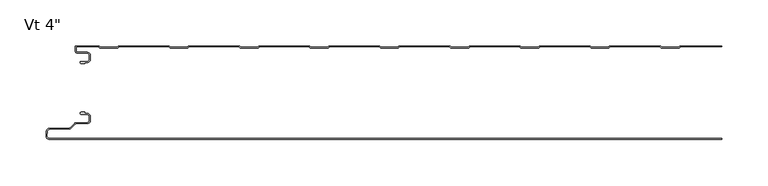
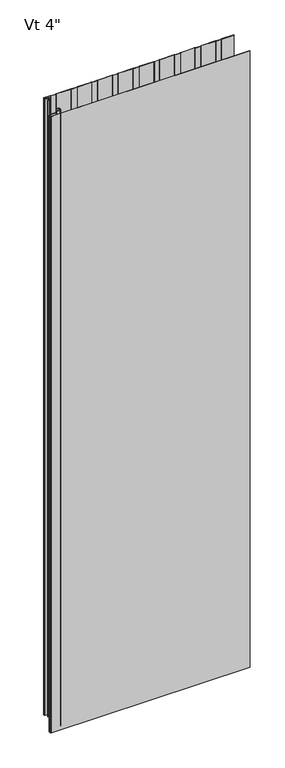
"""IFC4 building model written with IfcOpenShell, lengths in millimetres: plate geometry."""

from ifc_helpers import new_model, si_unit, point, frame, frame_2d, origin, origin_with_axes, place, context, project, spatial, polyline, circle_curve, trimmed, segment, composite_curve, outline, extrude, source, transform, mapped, element, save
from ifc_brep_helpers import plane_surface, cylinder_surface, revolved_surface, advanced_brep


def plate_c733afc2(model_context):
    return source(origin(), model_context, "Body", "SolidModel", [
        advanced_brep(
        [(-346.968691, -17.0015202, 2400.0), (-347.9686883, -18.0015234, 2400.0), (-346.968691, -19.0015147, 2400.0), (-342.9684874, -19.0015147, 2400.0), (-342.9684874, -18.0015202, 2400.0), (-340.2762776, -18.0015202, 2400.0), (-336.9762819, -14.7015245, 2400.0), (-336.9762819, -10.3015333, 2400.0), (-340.2762774, -7.0015378, 2400.0), (-350.6962563, -7.0015378, 2400.0), (-352.4662505, -5.2315436, 2400.0), (-352.4662505, -0.9999959, 2400.0), (-327.9659738, -0.9999959, 2400.0), (-326.5803312, -2.200235, 2400.0), (-307.2051649, -2.200235, 2400.0), (-305.819532, -1.0000043, 2400.0), (-251.7661166, -1.0000043, 2400.0), (-250.3804836, -2.200235, 2400.0), (-231.0053173, -2.200235, 2400.0), (-229.6196844, -1.0000043, 2400.0), (-175.566269, -1.0000043, 2400.0), (-174.180636, -2.200235, 2400.0), (-154.8054697, -2.200235, 2400.0), (-153.4198368, -1.0000043, 2400.0), (-99.3664214, -1.0000043, 2400.0), (-97.9807884, -2.200235, 2400.0), (-78.6056221, -2.200235, 2400.0), (-77.2199892, -1.0000043, 2400.0), (-23.1665738, -1.0000043, 2400.0), (-21.7809408, -2.200235, 2400.0), (-2.4057745, -2.200235, 2400.0), (-1.0201416, -1.0000043, 2400.0), (53.0332738, -1.0000043, 2400.0), (54.4189068, -2.200235, 2400.0), (73.7940731, -2.200235, 2400.0), (75.179706, -1.0000043, 2400.0), (129.2331214, -1.0000043, 2400.0), (130.6187544, -2.200235, 2400.0), (149.9939207, -2.200235, 2400.0), (151.3795536, -1.0000043, 2400.0), (205.432969, -1.0000043, 2400.0), (206.818602, -2.200235, 2400.0), (226.1937683, -2.200235, 2400.0), (227.5794012, -1.0000043, 2400.0), (281.6328166, -1.0000043, 2400.0), (283.0184496, -2.200235, 2400.0), (302.3936159, -2.200235, 2400.0), (303.7792488, -1.0000043, 2400.0), (348.9999998, -1.0000043, 2400.0), (348.9999998, -4.3e-06, 2400.0), (303.9284, -4.3e-06, 2400.0), (303.0117831, -0.3417928, 2400.0), (302.0207355, -1.200235, 2400.0), (283.39133, -1.200235, 2400.0), (282.4002824, -0.3417928, 2400.0), (281.4836655, -4.3e-06, 2400.0), (227.7285524, -4.3e-06, 2400.0), (226.8119355, -0.3417928, 2400.0), (225.8208879, -1.200235, 2400.0), (207.1914824, -1.200235, 2400.0), (206.2004348, -0.3417928, 2400.0), (205.2838179, -4.3e-06, 2400.0), (151.5287048, -4.3e-06, 2400.0), (150.6120879, -0.3417928, 2400.0), (149.6210403, -1.200235, 2400.0), (130.9916348, -1.200235, 2400.0), (130.0005872, -0.3417928, 2400.0), (129.0839703, -4.3e-06, 2400.0), (75.3288572, -4.3e-06, 2400.0), (74.4122403, -0.3417928, 2400.0), (73.4211927, -1.200235, 2400.0), (54.7917872, -1.200235, 2400.0), (53.8007396, -0.3417928, 2400.0), (52.8841227, -4.3e-06, 2400.0), (-0.8709904, -4.3e-06, 2400.0), (-1.7876073, -0.3417928, 2400.0), (-2.7786549, -1.200235, 2400.0), (-21.4080604, -1.200235, 2400.0), (-22.399108, -0.3417928, 2400.0), (-23.3157249, -4.3e-06, 2400.0), (-77.070838, -4.3e-06, 2400.0), (-77.9874549, -0.3417928, 2400.0), (-78.9785025, -1.200235, 2400.0), (-97.607908, -1.200235, 2400.0), (-98.5989556, -0.3417928, 2400.0), (-99.5155725, -4.3e-06, 2400.0), (-153.2706856, -4.3e-06, 2400.0), (-154.1873025, -0.3417928, 2400.0), (-155.1783501, -1.200235, 2400.0), (-173.8077556, -1.200235, 2400.0), (-174.7988032, -0.3417928, 2400.0), (-175.7154201, -4.3e-06, 2400.0), (-229.4705332, -4.3e-06, 2400.0), (-230.3871501, -0.3417928, 2400.0), (-231.3781977, -1.200235, 2400.0), (-250.0076032, -1.200235, 2400.0), (-250.9986508, -0.3417928, 2400.0), (-251.9152677, -4.3e-06, 2400.0), (-305.6703808, -4.3e-06, 2400.0), (-306.5869977, -0.3417928, 2400.0), (-307.5780453, -1.200235, 2400.0), (-326.2074508, -1.200235, 2400.0), (-327.1984984, -0.3417928, 2400.0), (-328.1152067, -4.3e-06, 2400.0), (-352.0662543, 4.1e-06, 2400.0), (-353.4662505, -1.3999921, 2400.0), (-353.4662505, -5.2315436, 2400.0), (-350.6962563, -8.0015378, 2400.0), (-340.2762774, -8.0015378, 2400.0), (-337.9762819, -10.3015333, 2400.0), (-337.9762819, -14.7015245, 2400.0), (-340.2762776, -17.0015202, 2400.0), (-346.968691, -17.0015202, 0.0), (-340.2762776, -17.0015202, 0.0), (-337.9762819, -14.7015245, 0.0), (-337.9762819, -10.3015333, 0.0), (-340.2762774, -8.0015378, 0.0), (-350.6962563, -8.0015378, 0.0), (-353.4662505, -5.2315436, 0.0), (-353.4662505, -1.3999921, 0.0), (-352.0662543, 4.1e-06, 0.0), (-328.1151153, 4.1e-06, 0.0), (-327.1984984, -0.3417928, 0.0), (-326.2074508, -1.200235, 0.0), (-307.5780453, -1.200235, 0.0), (-306.5869977, -0.3417928, 0.0), (-305.6703808, -4.3e-06, 0.0), (-251.9152677, -4.3e-06, 0.0), (-250.9986508, -0.3417928, 0.0), (-250.0076032, -1.200235, 0.0), (-231.3781977, -1.200235, 0.0), (-230.3871501, -0.3417928, 0.0), (-229.4705332, -4.3e-06, 0.0), (-175.7154201, -4.3e-06, 0.0), (-174.7988032, -0.3417928, 0.0), (-173.8077556, -1.200235, 0.0), (-155.1783501, -1.200235, 0.0), (-154.1873025, -0.3417928, 0.0), (-153.2706856, -4.3e-06, 0.0), (-99.5155725, -4.3e-06, 0.0), (-98.5989556, -0.3417928, 0.0), (-97.607908, -1.200235, 0.0), (-78.9785025, -1.200235, 0.0), (-77.9874549, -0.3417928, 0.0), (-77.070838, -4.3e-06, 0.0), (-23.3157249, -4.3e-06, 0.0), (-22.399108, -0.3417928, 0.0), (-21.4080604, -1.200235, 0.0), (-2.7786549, -1.200235, 0.0), (-1.7876073, -0.3417928, 0.0), (-0.8709904, -4.3e-06, 0.0), (52.8841227, -4.3e-06, 0.0), (53.8007396, -0.3417928, 0.0), (54.7917872, -1.200235, 0.0), (73.4211927, -1.200235, 0.0), (74.4122403, -0.3417928, 0.0), (75.3288572, -4.3e-06, 0.0), (129.0839703, -4.3e-06, 0.0), (130.0005872, -0.3417928, 0.0), (130.9916348, -1.200235, 0.0), (149.6210403, -1.200235, 0.0), (150.6120879, -0.3417928, 0.0), (151.5287048, -4.3e-06, 0.0), (205.2838179, -4.3e-06, 0.0), (206.2004348, -0.3417928, 0.0), (207.1914824, -1.200235, 0.0), (225.8208879, -1.200235, 0.0), (226.8119355, -0.3417928, 0.0), (227.7285524, -4.3e-06, 0.0), (281.4836655, -4.3e-06, 0.0), (282.4002824, -0.3417928, 0.0), (283.39133, -1.200235, 0.0), (302.0207355, -1.200235, 0.0), (303.0117831, -0.3417928, 0.0), (303.9284, -4.3e-06, 0.0), (348.9999998, -4.3e-06, 0.0), (348.9999998, -1.0000043, 0.0), (303.7792488, -1.0000043, 0.0), (302.3936159, -2.200235, 0.0), (283.0184496, -2.200235, 0.0), (281.6328166, -1.0000043, 0.0), (227.5794012, -1.0000043, 0.0), (226.1937683, -2.200235, 0.0), (206.818602, -2.200235, 0.0), (205.432969, -1.0000043, 0.0), (151.3795536, -1.0000043, 0.0), (149.9939207, -2.200235, 0.0), (130.6187544, -2.200235, 0.0), (129.2331214, -1.0000043, 0.0), (75.179706, -1.0000043, 0.0), (73.7940731, -2.200235, 0.0), (54.4189068, -2.200235, 0.0), (53.0332738, -1.0000043, 0.0), (-1.0201416, -1.0000043, 0.0), (-2.4057745, -2.200235, 0.0), (-21.7809408, -2.200235, 0.0), (-23.1665738, -1.0000043, 0.0), (-77.2199892, -1.0000043, 0.0), (-78.6056221, -2.200235, 0.0), (-97.9807884, -2.200235, 0.0), (-99.3664214, -1.0000043, 0.0), (-153.4198368, -1.0000043, 0.0), (-154.8054697, -2.200235, 0.0), (-174.180636, -2.200235, 0.0), (-175.566269, -1.0000043, 0.0), (-229.6196844, -1.0000043, 0.0), (-231.0053173, -2.200235, 0.0), (-250.3804836, -2.200235, 0.0), (-251.7661166, -1.0000043, 0.0), (-305.819532, -1.0000043, 0.0), (-307.2051649, -2.200235, 0.0), (-326.5803312, -2.200235, 0.0), (-327.9659738, -0.9999959, 0.0), (-352.4662505, -0.9999959, 0.0), (-352.4662505, -5.2315436, 0.0), (-350.6962563, -7.0015378, 0.0), (-340.2762774, -7.0015378, 0.0), (-336.9762819, -10.3015333, 0.0), (-336.9762819, -14.7015245, 0.0), (-340.2762776, -18.0015202, 0.0), (-342.9684874, -18.0015202, 0.0), (-342.9684874, -19.0015147, 0.0), (-346.968691, -19.0015147, 0.0), (-347.9686882, -18.0015235, 0.0)],
        [
            (0, 1, circle_curve(frame((-346.968691, -18.0015175, 2400.0), z_axis=(0.0, 0.0, 1.0), x_axis=(1.0, 0.0, 0.0)), 0.9999973)),
            (1, 2, circle_curve(frame((-346.968691, -18.0015175, 2400.0), z_axis=(0.0, 0.0, 1.0), x_axis=(1.0, 0.0, 0.0)), 0.9999972)),
            (2, 3),
            (3, 4),
            (4, 5),
            (5, 6, circle_curve(frame((-340.2762776, -14.7015245, 2400.0), z_axis=(0.0, 0.0, 1.0), x_axis=(1.0, 0.0, 0.0)), 3.2999957)),
            (6, 7),
            (7, 8, circle_curve(frame((-340.2762774, -10.3015333, 2400.0), z_axis=(0.0, 0.0, 1.0), x_axis=(1.0, 0.0, 0.0)), 3.2999955)),
            (8, 9),
            (9, 10, circle_curve(frame((-350.6962563, -5.2315436, 2400.0), z_axis=(0.0, 0.0, -1.0), x_axis=(1.0, 0.0, 0.0)), 1.7699942)),
            (10, 11),
            (11, 12),
            (12, 13),
            (13, 14),
            (14, 15),
            (15, 16),
            (16, 17),
            (17, 18),
            (18, 19),
            (19, 20),
            (20, 21),
            (21, 22),
            (22, 23),
            (23, 24),
            (24, 25),
            (25, 26),
            (26, 27),
            (27, 28),
            (28, 29),
            (29, 30),
            (30, 31),
            (31, 32),
            (32, 33),
            (33, 34),
            (34, 35),
            (35, 36),
            (36, 37),
            (37, 38),
            (38, 39),
            (39, 40),
            (40, 41),
            (41, 42),
            (42, 43),
            (43, 44),
            (44, 45),
            (45, 46),
            (46, 47),
            (47, 48),
            (48, 49),
            (49, 50),
            (50, 51, circle_curve(frame((303.9284, -1.4000015, 2400.0), z_axis=(0.0, 0.0, 1.0), x_axis=(1.0, 0.0, 0.0)), 1.3999972)),
            (51, 52),
            (52, 53),
            (53, 54),
            (54, 55, circle_curve(frame((281.4836655, -1.4000015, 2400.0), z_axis=(0.0, 0.0, 1.0), x_axis=(1.0, 0.0, 0.0)), 1.3999972)),
            (55, 56),
            (56, 57, circle_curve(frame((227.7285524, -1.4000015, 2400.0), z_axis=(0.0, 0.0, 1.0), x_axis=(1.0, 0.0, 0.0)), 1.3999972)),
            (57, 58),
            (58, 59),
            (59, 60),
            (60, 61, circle_curve(frame((205.2838179, -1.4000015, 2400.0), z_axis=(0.0, 0.0, 1.0), x_axis=(1.0, 0.0, 0.0)), 1.3999972)),
            (61, 62),
            (62, 63, circle_curve(frame((151.5287048, -1.4000015, 2400.0), z_axis=(0.0, 0.0, 1.0), x_axis=(1.0, 0.0, 0.0)), 1.3999972)),
            (63, 64),
            (64, 65),
            (65, 66),
            (66, 67, circle_curve(frame((129.0839703, -1.4000015, 2400.0), z_axis=(0.0, 0.0, 1.0), x_axis=(1.0, 0.0, 0.0)), 1.3999972)),
            (67, 68),
            (68, 69, circle_curve(frame((75.3288572, -1.4000015, 2400.0), z_axis=(0.0, 0.0, 1.0), x_axis=(1.0, 0.0, 0.0)), 1.3999972)),
            (69, 70),
            (70, 71),
            (71, 72),
            (72, 73, circle_curve(frame((52.8841227, -1.4000015, 2400.0), z_axis=(0.0, 0.0, 1.0), x_axis=(1.0, 0.0, 0.0)), 1.3999972)),
            (73, 74),
            (74, 75, circle_curve(frame((-0.8709904, -1.4000015, 2400.0), z_axis=(0.0, 0.0, 1.0), x_axis=(1.0, 0.0, 0.0)), 1.3999972)),
            (75, 76),
            (76, 77),
            (77, 78),
            (78, 79, circle_curve(frame((-23.3157249, -1.4000015, 2400.0), z_axis=(0.0, 0.0, 1.0), x_axis=(1.0, 0.0, 0.0)), 1.3999972)),
            (79, 80),
            (80, 81, circle_curve(frame((-77.070838, -1.4000015, 2400.0), z_axis=(0.0, 0.0, 1.0), x_axis=(1.0, 0.0, 0.0)), 1.3999972)),
            (81, 82),
            (82, 83),
            (83, 84),
            (84, 85, circle_curve(frame((-99.5155725, -1.4000015, 2400.0), z_axis=(0.0, 0.0, 1.0), x_axis=(1.0, 0.0, 0.0)), 1.3999972)),
            (85, 86),
            (86, 87, circle_curve(frame((-153.2706856, -1.4000015, 2400.0), z_axis=(0.0, 0.0, 1.0), x_axis=(1.0, 0.0, 0.0)), 1.3999972)),
            (87, 88),
            (88, 89),
            (89, 90),
            (90, 91, circle_curve(frame((-175.7154201, -1.4000015, 2400.0), z_axis=(0.0, 0.0, 1.0), x_axis=(1.0, 0.0, 0.0)), 1.3999972)),
            (91, 92),
            (92, 93, circle_curve(frame((-229.4705332, -1.4000015, 2400.0), z_axis=(0.0, 0.0, 1.0), x_axis=(1.0, 0.0, 0.0)), 1.3999972)),
            (93, 94),
            (94, 95),
            (95, 96),
            (96, 97, circle_curve(frame((-251.9152677, -1.4000015, 2400.0), z_axis=(0.0, 0.0, 1.0), x_axis=(1.0, 0.0, 0.0)), 1.3999972)),
            (97, 98),
            (98, 99, circle_curve(frame((-305.6703808, -1.4000015, 2400.0), z_axis=(0.0, 0.0, 1.0), x_axis=(1.0, 0.0, 0.0)), 1.3999972)),
            (99, 100),
            (100, 101),
            (101, 102),
            (102, 103, circle_curve(frame((-328.1151153, -1.4000015, 2400.0), z_axis=(0.0, 0.0, 1.0), x_axis=(1.0, 0.0, 0.0)), 1.3999972)),
            (103, 104),
            (104, 105, circle_curve(frame((-352.0662543, -1.3999921, 2400.0), z_axis=(0.0, 0.0, 1.0), x_axis=(1.0, 0.0, 0.0)), 1.3999962)),
            (105, 106),
            (106, 107, circle_curve(frame((-350.6962563, -5.2315436, 2400.0), z_axis=(0.0, 0.0, 1.0), x_axis=(1.0, 0.0, 0.0)), 2.7699942)),
            (107, 108),
            (108, 109, circle_curve(frame((-340.2762774, -10.3015333, 2400.0), z_axis=(0.0, 0.0, -1.0), x_axis=(1.0, 0.0, 0.0)), 2.2999955)),
            (109, 110),
            (110, 111, circle_curve(frame((-340.2762776, -14.7015245, 2400.0), z_axis=(0.0, 0.0, -1.0), x_axis=(1.0, 0.0, 0.0)), 2.2999957)),
            (111, 0),
            (112, 113),
            (113, 114, circle_curve(frame((-340.2762776, -14.7015245, 0.0), z_axis=(0.0, 0.0, 1.0), x_axis=(1.0, 0.0, 0.0)), 2.2999957)),
            (114, 115),
            (115, 116, circle_curve(frame((-340.2762774, -10.3015333, 0.0), z_axis=(0.0, 0.0, 1.0), x_axis=(1.0, 0.0, 0.0)), 2.2999955)),
            (116, 117),
            (117, 118, circle_curve(frame((-350.6962563, -5.2315436, 0.0), z_axis=(0.0, 0.0, -1.0), x_axis=(1.0, 0.0, 0.0)), 2.7699942)),
            (118, 119),
            (119, 120, circle_curve(frame((-352.0662543, -1.3999921, 0.0), z_axis=(0.0, 0.0, -1.0), x_axis=(1.0, 0.0, 0.0)), 1.3999962)),
            (120, 121),
            (121, 122, circle_curve(frame((-328.1151153, -1.4000015, 0.0), z_axis=(0.0, 0.0, -1.0), x_axis=(1.0, 0.0, 0.0)), 1.3999972)),
            (122, 123),
            (123, 124),
            (124, 125),
            (125, 126, circle_curve(frame((-305.6703808, -1.4000015, 0.0), z_axis=(0.0, 0.0, -1.0), x_axis=(1.0, 0.0, 0.0)), 1.3999972)),
            (126, 127),
            (127, 128, circle_curve(frame((-251.9152677, -1.4000015, 0.0), z_axis=(0.0, 0.0, -1.0), x_axis=(1.0, 0.0, 0.0)), 1.3999972)),
            (128, 129),
            (129, 130),
            (130, 131),
            (131, 132, circle_curve(frame((-229.4705332, -1.4000015, 0.0), z_axis=(0.0, 0.0, -1.0), x_axis=(1.0, 0.0, 0.0)), 1.3999972)),
            (132, 133),
            (133, 134, circle_curve(frame((-175.7154201, -1.4000015, 0.0), z_axis=(0.0, 0.0, -1.0), x_axis=(1.0, 0.0, 0.0)), 1.3999972)),
            (134, 135),
            (135, 136),
            (136, 137),
            (137, 138, circle_curve(frame((-153.2706856, -1.4000015, 0.0), z_axis=(0.0, 0.0, -1.0), x_axis=(1.0, 0.0, 0.0)), 1.3999972)),
            (138, 139),
            (139, 140, circle_curve(frame((-99.5155725, -1.4000015, 0.0), z_axis=(0.0, 0.0, -1.0), x_axis=(1.0, 0.0, 0.0)), 1.3999972)),
            (140, 141),
            (141, 142),
            (142, 143),
            (143, 144, circle_curve(frame((-77.070838, -1.4000015, 0.0), z_axis=(0.0, 0.0, -1.0), x_axis=(1.0, 0.0, 0.0)), 1.3999972)),
            (144, 145),
            (145, 146, circle_curve(frame((-23.3157249, -1.4000015, 0.0), z_axis=(0.0, 0.0, -1.0), x_axis=(1.0, 0.0, 0.0)), 1.3999972)),
            (146, 147),
            (147, 148),
            (148, 149),
            (149, 150, circle_curve(frame((-0.8709904, -1.4000015, 0.0), z_axis=(0.0, 0.0, -1.0), x_axis=(1.0, 0.0, 0.0)), 1.3999972)),
            (150, 151),
            (151, 152, circle_curve(frame((52.8841227, -1.4000015, 0.0), z_axis=(0.0, 0.0, -1.0), x_axis=(1.0, 0.0, 0.0)), 1.3999972)),
            (152, 153),
            (153, 154),
            (154, 155),
            (155, 156, circle_curve(frame((75.3288572, -1.4000015, 0.0), z_axis=(0.0, 0.0, -1.0), x_axis=(1.0, 0.0, 0.0)), 1.3999972)),
            (156, 157),
            (157, 158, circle_curve(frame((129.0839703, -1.4000015, 0.0), z_axis=(0.0, 0.0, -1.0), x_axis=(1.0, 0.0, 0.0)), 1.3999972)),
            (158, 159),
            (159, 160),
            (160, 161),
            (161, 162, circle_curve(frame((151.5287048, -1.4000015, 0.0), z_axis=(0.0, 0.0, -1.0), x_axis=(1.0, 0.0, 0.0)), 1.3999972)),
            (162, 163),
            (163, 164, circle_curve(frame((205.2838179, -1.4000015, 0.0), z_axis=(0.0, 0.0, -1.0), x_axis=(1.0, 0.0, 0.0)), 1.3999972)),
            (164, 165),
            (165, 166),
            (166, 167),
            (167, 168, circle_curve(frame((227.7285524, -1.4000015, 0.0), z_axis=(0.0, 0.0, -1.0), x_axis=(1.0, 0.0, 0.0)), 1.3999972)),
            (168, 169),
            (169, 170, circle_curve(frame((281.4836655, -1.4000015, 0.0), z_axis=(0.0, 0.0, -1.0), x_axis=(1.0, 0.0, 0.0)), 1.3999972)),
            (170, 171),
            (171, 172),
            (172, 173),
            (173, 174, circle_curve(frame((303.9284, -1.4000015, 0.0), z_axis=(0.0, 0.0, -1.0), x_axis=(1.0, 0.0, 0.0)), 1.3999972)),
            (174, 175),
            (175, 176),
            (176, 177),
            (177, 178),
            (178, 179),
            (179, 180),
            (180, 181),
            (181, 182),
            (182, 183),
            (183, 184),
            (184, 185),
            (185, 186),
            (186, 187),
            (187, 188),
            (188, 189),
            (189, 190),
            (190, 191),
            (191, 192),
            (192, 193),
            (193, 194),
            (194, 195),
            (195, 196),
            (196, 197),
            (197, 198),
            (198, 199),
            (199, 200),
            (200, 201),
            (201, 202),
            (202, 203),
            (203, 204),
            (204, 205),
            (205, 206),
            (206, 207),
            (207, 208),
            (208, 209),
            (209, 210),
            (210, 211),
            (211, 212),
            (212, 213),
            (213, 214),
            (214, 215, circle_curve(frame((-350.6962563, -5.2315436, 0.0), z_axis=(0.0, 0.0, 1.0), x_axis=(1.0, 0.0, 0.0)), 1.7699942)),
            (215, 216),
            (216, 217, circle_curve(frame((-340.2762774, -10.3015333, 0.0), z_axis=(0.0, 0.0, -1.0), x_axis=(1.0, 0.0, 0.0)), 3.2999955)),
            (217, 218),
            (218, 219, circle_curve(frame((-340.2762776, -14.7015245, 0.0), z_axis=(0.0, 0.0, -1.0), x_axis=(1.0, 0.0, 0.0)), 3.2999957)),
            (219, 220),
            (220, 221),
            (221, 222),
            (222, 223, circle_curve(frame((-346.968691, -18.0015175, 0.0), z_axis=(0.0, 0.0, -1.0), x_axis=(1.0, 0.0, 0.0)), 0.9999972)),
            (223, 112, circle_curve(frame((-346.968691, -18.0015175, 0.0), z_axis=(0.0, 0.0, -1.0), x_axis=(1.0, 0.0, 0.0)), 0.9999973)),
            (48, 176),
            (175, 49),
            (111, 113),
            (112, 0),
            (110, 114),
            (109, 115),
            (108, 116),
            (107, 117),
            (106, 118),
            (105, 119),
            (104, 120),
            (103, 121),
            (102, 122),
            (101, 123),
            (100, 124),
            (99, 125),
            (98, 126),
            (97, 127),
            (96, 128),
            (95, 129),
            (94, 130),
            (93, 131),
            (92, 132),
            (91, 133),
            (90, 134),
            (89, 135),
            (88, 136),
            (87, 137),
            (86, 138),
            (85, 139),
            (84, 140),
            (83, 141),
            (82, 142),
            (81, 143),
            (80, 144),
            (79, 145),
            (78, 146),
            (77, 147),
            (76, 148),
            (75, 149),
            (74, 150),
            (73, 151),
            (72, 152),
            (71, 153),
            (70, 154),
            (69, 155),
            (68, 156),
            (67, 157),
            (66, 158),
            (65, 159),
            (64, 160),
            (63, 161),
            (62, 162),
            (38, 186),
            (185, 39),
            (37, 187),
            (36, 188),
            (35, 189),
            (34, 190),
            (33, 191),
            (32, 192),
            (31, 193),
            (30, 194),
            (29, 195),
            (28, 196),
            (27, 197),
            (26, 198),
            (25, 199),
            (24, 200),
            (23, 201),
            (22, 202),
            (21, 203),
            (20, 204),
            (19, 205),
            (18, 206),
            (17, 207),
            (16, 208),
            (15, 209),
            (14, 210),
            (13, 211),
            (12, 212),
            (11, 213),
            (10, 214),
            (9, 215),
            (8, 216),
            (7, 217),
            (6, 218),
            (5, 219),
            (4, 220),
            (3, 221),
            (2, 222),
            (1, 223),
            (55, 169),
            (168, 56),
            (54, 170),
            (53, 171),
            (52, 172),
            (51, 173),
            (50, 174),
            (43, 181),
            (180, 44),
            (42, 182),
            (41, 183),
            (40, 184),
            (61, 163),
            (60, 164),
            (59, 165),
            (58, 166),
            (57, 167),
            (47, 177),
            (46, 178),
            (45, 179),
        ],
        [
            plane_surface(frame((32.0000002, -4.3e-06, 2400.0), z_axis=(0.0, 0.0, 1.0), x_axis=(0.0, 1.0, 0.0))),
            plane_surface(frame((32.0000002, -4.3e-06, 0.0), z_axis=(0.0, 0.0, -1.0), x_axis=(0.0, 1.0, 0.0))),
            plane_surface(frame((348.9999998, -111.6000043, 2400.0), z_axis=(1.0, 0.0, 0.0), x_axis=(0.0, 0.0, -1.0))),
            plane_surface(frame((-346.968691, -17.0015202, 2400.0), z_axis=(0.0, 1.0, 0.0), x_axis=(0.0, 0.0, -1.0))),
            revolved_surface(polyline([(-337.9762819, -14.7015245, 0.0), (-337.9762819, -14.7015245, 2400.0)]), (-340.2762776, -14.7015245, 2400.0), (0.0, 0.0, -1.0)),
            plane_surface(frame((-337.9762819, -14.7015245, 2400.0), z_axis=(-1.0, 0.0, 0.0), x_axis=(0.0, 0.0, -1.0))),
            revolved_surface(polyline([(-337.9762819, -10.3015333, 0.0), (-337.9762819, -10.3015333, 2400.0)]), (-340.2762774, -10.3015333, 2400.0), (0.0, 0.0, -1.0)),
            plane_surface(frame((-340.2762774, -8.0015378, 2400.0), z_axis=(0.0, -1.0, 0.0), x_axis=(0.0, 0.0, -1.0))),
            cylinder_surface(frame((-350.6962563, -5.2315436, 2400.0), z_axis=(0.0, 0.0, 1.0), x_axis=(1.0, 0.0, 0.0)), 2.7699942),
            plane_surface(frame((-353.4662505, -5.2315436, 2400.0), z_axis=(-1.0, 0.0, 0.0), x_axis=(0.0, 0.0, -1.0))),
            cylinder_surface(frame((-352.0662543, -1.3999921, 2400.0), z_axis=(0.0, 0.0, 1.0), x_axis=(1.0, 0.0, 0.0)), 1.3999962),
            plane_surface(frame((-352.0662543, 4.1e-06, 2400.0), z_axis=(0.0, 1.0, 0.0), x_axis=(0.0, 0.0, -1.0))),
            cylinder_surface(frame((-328.1151153, -1.4000015, 2400.0), z_axis=(0.0, 0.0, 1.0), x_axis=(1.0, 0.0, 0.0)), 1.3999972),
            plane_surface(frame((-327.1984984, -0.3417928, 2400.0), z_axis=(0.6547276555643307, 0.7558648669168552, 0.0), x_axis=(0.0, 0.0, -1.0))),
            plane_surface(frame((-316.8927481, -1.200235, 2400.0), z_axis=(0.0, 1.0, 0.0), x_axis=(0.0, 0.0, -1.0))),
            plane_surface(frame((-307.5780453, -1.200235, 2400.0), z_axis=(-0.6547276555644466, 0.7558648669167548, 0.0), x_axis=(0.0, 0.0, -1.0))),
            cylinder_surface(frame((-305.6703808, -1.4000015, 2400.0), z_axis=(0.0, 0.0, 1.0), x_axis=(1.0, 0.0, 0.0)), 1.3999972),
            plane_surface(frame((-305.6703808, -4.3e-06, 2400.0), z_axis=(0.0, 1.0, 0.0), x_axis=(0.0, 0.0, -1.0))),
            cylinder_surface(frame((-251.9152677, -1.4000015, 2400.0), z_axis=(0.0, 0.0, 1.0), x_axis=(1.0, 0.0, 0.0)), 1.3999972),
            plane_surface(frame((-250.9986508, -0.3417928, 2400.0), z_axis=(0.6547276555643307, 0.7558648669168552, 0.0), x_axis=(0.0, 0.0, -1.0))),
            plane_surface(frame((-240.6929005, -1.200235, 2400.0), z_axis=(0.0, 1.0, 0.0), x_axis=(0.0, 0.0, -1.0))),
            plane_surface(frame((-231.3781977, -1.200235, 2400.0), z_axis=(-0.6547276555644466, 0.7558648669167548, 0.0), x_axis=(0.0, 0.0, -1.0))),
            cylinder_surface(frame((-229.4705332, -1.4000015, 2400.0), z_axis=(0.0, 0.0, 1.0), x_axis=(1.0, 0.0, 0.0)), 1.3999972),
            plane_surface(frame((-229.4705332, -4.3e-06, 2400.0), z_axis=(0.0, 1.0, 0.0), x_axis=(0.0, 0.0, -1.0))),
            cylinder_surface(frame((-175.7154201, -1.4000015, 2400.0), z_axis=(0.0, 0.0, 1.0), x_axis=(1.0, 0.0, 0.0)), 1.3999972),
            plane_surface(frame((-174.7988032, -0.3417928, 2400.0), z_axis=(0.6547276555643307, 0.7558648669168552, 0.0), x_axis=(0.0, 0.0, -1.0))),
            plane_surface(frame((-164.4930529, -1.200235, 2400.0), z_axis=(0.0, 1.0, 0.0), x_axis=(0.0, 0.0, -1.0))),
            plane_surface(frame((-155.1783501, -1.200235, 2400.0), z_axis=(-0.6547276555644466, 0.7558648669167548, 0.0), x_axis=(0.0, 0.0, -1.0))),
            cylinder_surface(frame((-153.2706856, -1.4000015, 2400.0), z_axis=(0.0, 0.0, 1.0), x_axis=(1.0, 0.0, 0.0)), 1.3999972),
            plane_surface(frame((-153.2706856, -4.3e-06, 2400.0), z_axis=(0.0, 1.0, 0.0), x_axis=(0.0, 0.0, -1.0))),
            cylinder_surface(frame((-99.5155725, -1.4000015, 2400.0), z_axis=(0.0, 0.0, 1.0), x_axis=(1.0, 0.0, 0.0)), 1.3999972),
            plane_surface(frame((-98.5989556, -0.3417928, 2400.0), z_axis=(0.6547276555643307, 0.7558648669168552, 0.0), x_axis=(0.0, 0.0, -1.0))),
            plane_surface(frame((-88.2932053, -1.200235, 2400.0), z_axis=(0.0, 1.0, 0.0), x_axis=(0.0, 0.0, -1.0))),
            plane_surface(frame((-78.9785025, -1.200235, 2400.0), z_axis=(-0.6547276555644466, 0.7558648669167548, 0.0), x_axis=(0.0, 0.0, -1.0))),
            cylinder_surface(frame((-77.070838, -1.4000015, 2400.0), z_axis=(0.0, 0.0, 1.0), x_axis=(1.0, 0.0, 0.0)), 1.3999972),
            plane_surface(frame((-77.070838, -4.3e-06, 2400.0), z_axis=(0.0, 1.0, 0.0), x_axis=(0.0, 0.0, -1.0))),
            cylinder_surface(frame((-23.3157249, -1.4000015, 2400.0), z_axis=(0.0, 0.0, 1.0), x_axis=(1.0, 0.0, 0.0)), 1.3999972),
            plane_surface(frame((-22.399108, -0.3417928, 2400.0), z_axis=(0.6547276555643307, 0.7558648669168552, 0.0), x_axis=(0.0, 0.0, -1.0))),
            plane_surface(frame((-12.0933577, -1.200235, 2400.0), z_axis=(0.0, 1.0, 0.0), x_axis=(0.0, 0.0, -1.0))),
            plane_surface(frame((-2.7786549, -1.200235, 2400.0), z_axis=(-0.6547276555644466, 0.7558648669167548, 0.0), x_axis=(0.0, 0.0, -1.0))),
            cylinder_surface(frame((-0.8709904, -1.4000015, 2400.0), z_axis=(0.0, 0.0, 1.0), x_axis=(1.0, 0.0, 0.0)), 1.3999972),
            plane_surface(frame((-0.8709904, -4.3e-06, 2400.0), z_axis=(0.0, 1.0, 0.0), x_axis=(0.0, 0.0, -1.0))),
            cylinder_surface(frame((52.8841227, -1.4000015, 2400.0), z_axis=(0.0, 0.0, 1.0), x_axis=(1.0, 0.0, 0.0)), 1.3999972),
            plane_surface(frame((53.8007396, -0.3417928, 2400.0), z_axis=(0.6547276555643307, 0.7558648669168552, 0.0), x_axis=(0.0, 0.0, -1.0))),
            plane_surface(frame((64.1064899, -1.200235, 2400.0), z_axis=(0.0, 1.0, 0.0), x_axis=(0.0, 0.0, -1.0))),
            plane_surface(frame((73.4211927, -1.200235, 2400.0), z_axis=(-0.6547276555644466, 0.7558648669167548, 0.0), x_axis=(0.0, 0.0, -1.0))),
            cylinder_surface(frame((75.3288572, -1.4000015, 2400.0), z_axis=(0.0, 0.0, 1.0), x_axis=(1.0, 0.0, 0.0)), 1.3999972),
            plane_surface(frame((75.3288572, -4.3e-06, 2400.0), z_axis=(0.0, 1.0, 0.0), x_axis=(0.0, 0.0, -1.0))),
            cylinder_surface(frame((129.0839703, -1.4000015, 2400.0), z_axis=(0.0, 0.0, 1.0), x_axis=(1.0, 0.0, 0.0)), 1.3999972),
            plane_surface(frame((130.0005872, -0.3417928, 2400.0), z_axis=(0.6547276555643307, 0.7558648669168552, 0.0), x_axis=(0.0, 0.0, -1.0))),
            plane_surface(frame((140.3063375, -1.200235, 2400.0), z_axis=(0.0, 1.0, 0.0), x_axis=(0.0, 0.0, -1.0))),
            plane_surface(frame((149.6210403, -1.200235, 2400.0), z_axis=(-0.6547276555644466, 0.7558648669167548, 0.0), x_axis=(0.0, 0.0, -1.0))),
            cylinder_surface(frame((151.5287048, -1.4000015, 2400.0), z_axis=(0.0, 0.0, 1.0), x_axis=(1.0, 0.0, 0.0)), 1.3999972),
            plane_surface(frame((151.3795536, -1.0000043, 2400.0), z_axis=(0.6547276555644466, -0.7558648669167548, 0.0), x_axis=(0.0, 0.0, -1.0))),
            plane_surface(frame((149.9939207, -2.200235, 2400.0), z_axis=(0.0, -1.0, 0.0), x_axis=(0.0, 0.0, -1.0))),
            plane_surface(frame((130.6187544, -2.200235, 2400.0), z_axis=(-0.6547276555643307, -0.7558648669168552, 0.0), x_axis=(0.0, 0.0, -1.0))),
            plane_surface(frame((129.2331214, -1.0000043, 2400.0), z_axis=(0.0, -1.0, 0.0), x_axis=(0.0, 0.0, -1.0))),
            plane_surface(frame((75.179706, -1.0000043, 2400.0), z_axis=(0.6547276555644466, -0.7558648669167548, 0.0), x_axis=(0.0, 0.0, -1.0))),
            plane_surface(frame((73.7940731, -2.200235, 2400.0), z_axis=(0.0, -1.0, 0.0), x_axis=(0.0, 0.0, -1.0))),
            plane_surface(frame((54.4189068, -2.200235, 2400.0), z_axis=(-0.6547276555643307, -0.7558648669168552, 0.0), x_axis=(0.0, 0.0, -1.0))),
            plane_surface(frame((53.0332738, -1.0000043, 2400.0), z_axis=(0.0, -1.0, 0.0), x_axis=(0.0, 0.0, -1.0))),
            plane_surface(frame((-1.0201416, -1.0000043, 2400.0), z_axis=(0.6547276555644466, -0.7558648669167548, 0.0), x_axis=(0.0, 0.0, -1.0))),
            plane_surface(frame((-2.4057745, -2.200235, 2400.0), z_axis=(0.0, -1.0, 0.0), x_axis=(0.0, 0.0, -1.0))),
            plane_surface(frame((-21.7809408, -2.200235, 2400.0), z_axis=(-0.6547276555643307, -0.7558648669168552, 0.0), x_axis=(0.0, 0.0, -1.0))),
            plane_surface(frame((-23.1665738, -1.0000043, 2400.0), z_axis=(0.0, -1.0, 0.0), x_axis=(0.0, 0.0, -1.0))),
            plane_surface(frame((-77.2199892, -1.0000043, 2400.0), z_axis=(0.6547276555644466, -0.7558648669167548, 0.0), x_axis=(0.0, 0.0, -1.0))),
            plane_surface(frame((-78.6056221, -2.200235, 2400.0), z_axis=(0.0, -1.0, 0.0), x_axis=(0.0, 0.0, -1.0))),
            plane_surface(frame((-97.9807884, -2.200235, 2400.0), z_axis=(-0.6547276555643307, -0.7558648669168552, 0.0), x_axis=(0.0, 0.0, -1.0))),
            plane_surface(frame((-99.3664214, -1.0000043, 2400.0), z_axis=(0.0, -1.0, 0.0), x_axis=(0.0, 0.0, -1.0))),
            plane_surface(frame((-153.4198368, -1.0000043, 2400.0), z_axis=(0.6547276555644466, -0.7558648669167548, 0.0), x_axis=(0.0, 0.0, -1.0))),
            plane_surface(frame((-154.8054697, -2.200235, 2400.0), z_axis=(0.0, -1.0, 0.0), x_axis=(0.0, 0.0, -1.0))),
            plane_surface(frame((-174.180636, -2.200235, 2400.0), z_axis=(-0.6547276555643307, -0.7558648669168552, 0.0), x_axis=(0.0, 0.0, -1.0))),
            plane_surface(frame((-175.566269, -1.0000043, 2400.0), z_axis=(0.0, -1.0, 0.0), x_axis=(0.0, 0.0, -1.0))),
            plane_surface(frame((-229.6196844, -1.0000043, 2400.0), z_axis=(0.6547276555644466, -0.7558648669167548, 0.0), x_axis=(0.0, 0.0, -1.0))),
            plane_surface(frame((-231.0053173, -2.200235, 2400.0), z_axis=(0.0, -1.0, 0.0), x_axis=(0.0, 0.0, -1.0))),
            plane_surface(frame((-250.3804836, -2.200235, 2400.0), z_axis=(-0.6547276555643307, -0.7558648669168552, 0.0), x_axis=(0.0, 0.0, -1.0))),
            plane_surface(frame((-251.7661166, -1.0000043, 2400.0), z_axis=(0.0, -1.0, 0.0), x_axis=(0.0, 0.0, -1.0))),
            plane_surface(frame((-305.819532, -1.0000043, 2400.0), z_axis=(0.6547276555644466, -0.7558648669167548, 0.0), x_axis=(0.0, 0.0, -1.0))),
            plane_surface(frame((-307.2051649, -2.200235, 2400.0), z_axis=(0.0, -1.0, 0.0), x_axis=(0.0, 0.0, -1.0))),
            plane_surface(frame((-326.5803312, -2.200235, 2400.0), z_axis=(-0.6547276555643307, -0.7558648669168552, 0.0), x_axis=(0.0, 0.0, -1.0))),
            plane_surface(frame((-327.9659738, -0.9999959, 2400.0), z_axis=(0.0, -1.0, 0.0), x_axis=(0.0, 0.0, -1.0))),
            plane_surface(frame((-352.4662505, -0.9999959, 2400.0), z_axis=(1.0, 0.0, 0.0), x_axis=(0.0, 0.0, -1.0))),
            revolved_surface(polyline([(-348.92626210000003, -5.2315436, 0.0), (-348.92626210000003, -5.2315436, 2400.0)]), (-350.6962563, -5.2315436, 2400.0), (0.0, 0.0, -1.0)),
            plane_surface(frame((-350.6962563, -7.0015378, 2400.0), z_axis=(0.0, 1.0, 0.0), x_axis=(0.0, 0.0, -1.0))),
            cylinder_surface(frame((-340.2762774, -10.3015333, 2400.0), z_axis=(0.0, 0.0, 1.0), x_axis=(1.0, 0.0, 0.0)), 3.2999955),
            plane_surface(frame((-336.9762819, -10.3015333, 2400.0), z_axis=(1.0, 0.0, 0.0), x_axis=(0.0, 0.0, -1.0))),
            cylinder_surface(frame((-340.2762776, -14.7015245, 2400.0), z_axis=(0.0, 0.0, 1.0), x_axis=(1.0, 0.0, 0.0)), 3.2999957),
            plane_surface(frame((-340.2762776, -18.0015202, 2400.0), z_axis=(0.0, -1.0, 0.0), x_axis=(0.0, 0.0, -1.0))),
            plane_surface(frame((-342.9684874, -18.0015202, 2400.0), z_axis=(1.0, 0.0, 0.0), x_axis=(0.0, 0.0, -1.0))),
            plane_surface(frame((-342.9684874, -19.0015147, 2400.0), z_axis=(0.0, -1.0, 0.0), x_axis=(0.0, 0.0, -1.0))),
            cylinder_surface(frame((-346.968691, -18.0015175, 2400.0), z_axis=(0.0, 0.0, 1.0), x_axis=(1.0, 0.0, 0.0)), 0.9999972),
            cylinder_surface(frame((-346.968691, -18.0015175, 2400.0), z_axis=(0.0, 0.0, 1.0), x_axis=(1.0, 0.0, 0.0)), 0.9999973),
            plane_surface(frame((227.7285524, -4.3e-06, 2400.0), z_axis=(0.0, 1.0, 0.0), x_axis=(0.0, 0.0, -1.0))),
            cylinder_surface(frame((281.4836655, -1.4000015, 2400.0), z_axis=(0.0, 0.0, 1.0), x_axis=(1.0, 0.0, 0.0)), 1.3999972),
            plane_surface(frame((282.4002824, -0.3417928, 2400.0), z_axis=(0.6547276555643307, 0.7558648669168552, 0.0), x_axis=(0.0, 0.0, -1.0))),
            plane_surface(frame((292.7060327, -1.200235, 2400.0), z_axis=(0.0, 1.0, 0.0), x_axis=(0.0, 0.0, -1.0))),
            plane_surface(frame((302.0207355, -1.200235, 2400.0), z_axis=(-0.6547276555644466, 0.7558648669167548, 0.0), x_axis=(0.0, 0.0, -1.0))),
            cylinder_surface(frame((303.9284, -1.4000015, 2400.0), z_axis=(0.0, 0.0, 1.0), x_axis=(1.0, 0.0, 0.0)), 1.3999972),
            plane_surface(frame((303.9284, -4.3e-06, 2400.0), z_axis=(0.0, 1.0, 0.0), x_axis=(0.0, 0.0, -1.0))),
            plane_surface(frame((281.6328166, -1.0000043, 2400.0), z_axis=(0.0, -1.0, 0.0), x_axis=(0.0, 0.0, -1.0))),
            plane_surface(frame((227.5794012, -1.0000043, 2400.0), z_axis=(0.6547276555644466, -0.7558648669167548, 0.0), x_axis=(0.0, 0.0, -1.0))),
            plane_surface(frame((226.1937683, -2.200235, 2400.0), z_axis=(0.0, -1.0, 0.0), x_axis=(0.0, 0.0, -1.0))),
            plane_surface(frame((206.818602, -2.200235, 2400.0), z_axis=(-0.6547276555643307, -0.7558648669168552, 0.0), x_axis=(0.0, 0.0, -1.0))),
            plane_surface(frame((205.432969, -1.0000043, 2400.0), z_axis=(0.0, -1.0, 0.0), x_axis=(0.0, 0.0, -1.0))),
            plane_surface(frame((151.5287048, -4.3e-06, 2400.0), z_axis=(0.0, 1.0, 0.0), x_axis=(0.0, 0.0, -1.0))),
            cylinder_surface(frame((205.2838179, -1.4000015, 2400.0), z_axis=(0.0, 0.0, 1.0), x_axis=(1.0, 0.0, 0.0)), 1.3999972),
            plane_surface(frame((206.2004348, -0.3417928, 2400.0), z_axis=(0.6547276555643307, 0.7558648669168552, 0.0), x_axis=(0.0, 0.0, -1.0))),
            plane_surface(frame((216.5061851, -1.200235, 2400.0), z_axis=(0.0, 1.0, 0.0), x_axis=(0.0, 0.0, -1.0))),
            plane_surface(frame((225.8208879, -1.200235, 2400.0), z_axis=(-0.6547276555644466, 0.7558648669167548, 0.0), x_axis=(0.0, 0.0, -1.0))),
            cylinder_surface(frame((227.7285524, -1.4000015, 2400.0), z_axis=(0.0, 0.0, 1.0), x_axis=(1.0, 0.0, 0.0)), 1.3999972),
            plane_surface(frame((357.8326642, -1.0000043, 2400.0), z_axis=(0.0, -1.0, 0.0), x_axis=(0.0, 0.0, -1.0))),
            plane_surface(frame((303.7792488, -1.0000043, 2400.0), z_axis=(0.6547276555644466, -0.7558648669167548, 0.0), x_axis=(0.0, 0.0, -1.0))),
            plane_surface(frame((302.3936159, -2.200235, 2400.0), z_axis=(0.0, -1.0, 0.0), x_axis=(0.0, 0.0, -1.0))),
            plane_surface(frame((283.0184496, -2.200235, 2400.0), z_axis=(-0.6547276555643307, -0.7558648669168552, 0.0), x_axis=(0.0, 0.0, -1.0))),
        ],
        [
            (0, [[1, 2, 3, 4, 5, 6, 7, 8, 9, 10, 11, 12, 13, 14, 15, 16, 17, 18, 19, 20, 21, 22, 23, 24, 25, 26, 27, 28, 29, 30, 31, 32, 33, 34, 35, 36, 37, 38, 39, 40, 41, 42, 43, 44, 45, 46, 47, 48, 49, 50, 51, 52, 53, 54, 55, 56, 57, 58, 59, 60, 61, 62, 63, 64, 65, 66, 67, 68, 69, 70, 71, 72, 73, 74, 75, 76, 77, 78, 79, 80, 81, 82, 83, 84, 85, 86, 87, 88, 89, 90, 91, 92, 93, 94, 95, 96, 97, 98, 99, 100, 101, 102, 103, 104, 105, 106, 107, 108, 109, 110, 111, 112]]),
            (1, [[113, 114, 115, 116, 117, 118, 119, 120, 121, 122, 123, 124, 125, 126, 127, 128, 129, 130, 131, 132, 133, 134, 135, 136, 137, 138, 139, 140, 141, 142, 143, 144, 145, 146, 147, 148, 149, 150, 151, 152, 153, 154, 155, 156, 157, 158, 159, 160, 161, 162, 163, 164, 165, 166, 167, 168, 169, 170, 171, 172, 173, 174, 175, 176, 177, 178, 179, 180, 181, 182, 183, 184, 185, 186, 187, 188, 189, 190, 191, 192, 193, 194, 195, 196, 197, 198, 199, 200, 201, 202, 203, 204, 205, 206, 207, 208, 209, 210, 211, 212, 213, 214, 215, 216, 217, 218, 219, 220, 221, 222, 223, 224]]),
            (2, [[225, -176, 226, -49]]),
            (3, [[227, -113, 228, -112]]),
            (4, [[229, -114, -227, -111]]),
            (5, [[230, -115, -229, -110]]),
            (6, [[231, -116, -230, -109]]),
            (7, [[232, -117, -231, -108]]),
            (8, [[233, -118, -232, -107]]),
            (9, [[234, -119, -233, -106]]),
            (10, [[235, -120, -234, -105]]),
            (11, [[236, -121, -235, -104]]),
            (12, [[237, -122, -236, -103]]),
            (13, [[238, -123, -237, -102]]),
            (14, [[239, -124, -238, -101]]),
            (15, [[240, -125, -239, -100]]),
            (16, [[241, -126, -240, -99]]),
            (17, [[242, -127, -241, -98]]),
            (18, [[243, -128, -242, -97]]),
            (19, [[244, -129, -243, -96]]),
            (20, [[245, -130, -244, -95]]),
            (21, [[246, -131, -245, -94]]),
            (22, [[247, -132, -246, -93]]),
            (23, [[248, -133, -247, -92]]),
            (24, [[249, -134, -248, -91]]),
            (25, [[250, -135, -249, -90]]),
            (26, [[251, -136, -250, -89]]),
            (27, [[252, -137, -251, -88]]),
            (28, [[253, -138, -252, -87]]),
            (29, [[254, -139, -253, -86]]),
            (30, [[255, -140, -254, -85]]),
            (31, [[256, -141, -255, -84]]),
            (32, [[257, -142, -256, -83]]),
            (33, [[258, -143, -257, -82]]),
            (34, [[259, -144, -258, -81]]),
            (35, [[260, -145, -259, -80]]),
            (36, [[261, -146, -260, -79]]),
            (37, [[262, -147, -261, -78]]),
            (38, [[263, -148, -262, -77]]),
            (39, [[264, -149, -263, -76]]),
            (40, [[265, -150, -264, -75]]),
            (41, [[266, -151, -265, -74]]),
            (42, [[267, -152, -266, -73]]),
            (43, [[268, -153, -267, -72]]),
            (44, [[269, -154, -268, -71]]),
            (45, [[270, -155, -269, -70]]),
            (46, [[271, -156, -270, -69]]),
            (47, [[272, -157, -271, -68]]),
            (48, [[273, -158, -272, -67]]),
            (49, [[274, -159, -273, -66]]),
            (50, [[275, -160, -274, -65]]),
            (51, [[276, -161, -275, -64]]),
            (52, [[277, -162, -276, -63]]),
            (53, [[278, -186, 279, -39]]),
            (54, [[280, -187, -278, -38]]),
            (55, [[281, -188, -280, -37]]),
            (56, [[282, -189, -281, -36]]),
            (57, [[283, -190, -282, -35]]),
            (58, [[284, -191, -283, -34]]),
            (59, [[285, -192, -284, -33]]),
            (60, [[286, -193, -285, -32]]),
            (61, [[287, -194, -286, -31]]),
            (62, [[288, -195, -287, -30]]),
            (63, [[289, -196, -288, -29]]),
            (64, [[290, -197, -289, -28]]),
            (65, [[291, -198, -290, -27]]),
            (66, [[292, -199, -291, -26]]),
            (67, [[293, -200, -292, -25]]),
            (68, [[294, -201, -293, -24]]),
            (69, [[295, -202, -294, -23]]),
            (70, [[296, -203, -295, -22]]),
            (71, [[297, -204, -296, -21]]),
            (72, [[298, -205, -297, -20]]),
            (73, [[299, -206, -298, -19]]),
            (74, [[300, -207, -299, -18]]),
            (75, [[301, -208, -300, -17]]),
            (76, [[302, -209, -301, -16]]),
            (77, [[303, -210, -302, -15]]),
            (78, [[304, -211, -303, -14]]),
            (79, [[305, -212, -304, -13]]),
            (80, [[306, -213, -305, -12]]),
            (81, [[307, -214, -306, -11]]),
            (82, [[308, -215, -307, -10]]),
            (83, [[309, -216, -308, -9]]),
            (84, [[310, -217, -309, -8]]),
            (85, [[311, -218, -310, -7]]),
            (86, [[312, -219, -311, -6]]),
            (87, [[313, -220, -312, -5]]),
            (88, [[314, -221, -313, -4]]),
            (89, [[315, -222, -314, -3]]),
            (90, [[316, -223, -315, -2]]),
            (91, [[-228, -224, -316, -1]]),
            (92, [[317, -169, 318, -56]]),
            (93, [[319, -170, -317, -55]]),
            (94, [[320, -171, -319, -54]]),
            (95, [[321, -172, -320, -53]]),
            (96, [[322, -173, -321, -52]]),
            (97, [[323, -174, -322, -51]]),
            (98, [[-50, -226, -175, -323]]),
            (99, [[324, -181, 325, -44]]),
            (100, [[326, -182, -324, -43]]),
            (101, [[327, -183, -326, -42]]),
            (102, [[328, -184, -327, -41]]),
            (103, [[-279, -185, -328, -40]]),
            (104, [[329, -163, -277, -62]]),
            (105, [[330, -164, -329, -61]]),
            (106, [[331, -165, -330, -60]]),
            (107, [[332, -166, -331, -59]]),
            (108, [[333, -167, -332, -58]]),
            (109, [[-318, -168, -333, -57]]),
            (110, [[-177, -225, -48, 334]]),
            (111, [[335, -178, -334, -47]]),
            (112, [[336, -179, -335, -46]]),
            (113, [[-325, -180, -336, -45]]),
        ],
    ),
        extrude(outline(composite_curve([segment(polyline([(-385.0087548, -97.7184134), (-384.5690674, -92.694448)]), True, "CONTINUOUS"), segment(trimmed(circle_curve(frame_2d((-380.9198391, -93.3052491)), 3.6999926), [point((-384.5690674, -92.694448))], [point((-380.9198391, -89.6052565))], False, "CARTESIAN"), True, "CONTINUOUS"), segment(polyline([(-380.9198391, -89.6052565), (-359.7773995, -89.6052565)]), True, "CONTINUOUS"), segment(trimmed(circle_curve(frame_2d((-359.7773995, -88.3052591)), 1.2999974), [point((-359.7773995, -89.6052565))], [point((-358.8581626, -89.2244961))], True, "CARTESIAN"), True, "CONTINUOUS"), segment(polyline([(-358.8581626, -89.2244961), (-354.0297451, -84.3960786)]), True, "CONTINUOUS"), segment(trimmed(circle_curve(frame_2d((-352.1205606, -86.3052631)), 2.6999946), [point((-354.0297451, -84.3960786))], [point((-352.1205606, -83.6052685))], False, "CARTESIAN"), True, "CONTINUOUS"), segment(polyline([(-352.1205606, -83.6052685), (-340.3096715, -83.6052685)]), True, "CONTINUOUS"), segment(trimmed(circle_curve(frame_2d((-340.3096715, -81.2552732)), 2.3499953), [point((-340.3096715, -83.6052685))], [point((-337.9596762, -81.2552732))], True, "CARTESIAN"), True, "CONTINUOUS"), segment(polyline([(-337.9596762, -81.2552732), (-337.9596762, -76.855282)]), True, "CONTINUOUS"), segment(trimmed(circle_curve(frame_2d((-340.3096715, -76.855282)), 2.3499953), [point((-337.9596762, -76.855282))], [point((-340.3096715, -74.5052867))], True, "CARTESIAN"), True, "CONTINUOUS"), segment(polyline([(-340.3096715, -74.5052867), (-346.8289777, -74.5052867)]), True, "CONTINUOUS"), segment(trimmed(circle_curve(frame_2d((-346.7686906, -73.3068044)), 1.1999976), [point((-346.8289777, -74.5052867))], [point((-347.9683, -73.2762825))], False, "CARTESIAN"), True, "CONTINUOUS"), segment(trimmed(circle_curve(frame_2d((-346.7686906, -73.3068044)), 1.1999976), [point((-347.9683, -73.2762825))], [point((-346.767176, -72.1068078))], False, "CARTESIAN"), True, "CONTINUOUS"), segment(polyline([(-346.767176, -72.1068078), (-343.0087826, -72.1068078), (-343.0087826, -73.5052867), (-340.3096715, -73.5052867)]), True, "CONTINUOUS"), segment(trimmed(circle_curve(frame_2d((-340.3096715, -76.855282)), 3.3499953), [point((-340.3096715, -73.5052867))], [point((-336.9596762, -76.855282))], False, "CARTESIAN"), True, "CONTINUOUS"), segment(polyline([(-336.9596762, -76.855282), (-336.9596762, -81.2552732)]), True, "CONTINUOUS"), segment(trimmed(circle_curve(frame_2d((-340.3096715, -81.2552732)), 3.3499953), [point((-336.9596762, -81.2552732))], [point((-340.3096715, -84.6052685))], False, "CARTESIAN"), True, "CONTINUOUS"), segment(polyline([(-340.3096715, -84.6052685), (-352.1205606, -84.6052685)]), True, "CONTINUOUS"), segment(trimmed(circle_curve(frame_2d((-352.1205606, -86.3052631)), 1.6999946), [point((-352.1205606, -84.6052685))], [point((-353.3226383, -85.1031854))], True, "CARTESIAN"), True, "CONTINUOUS"), segment(polyline([(-353.3226383, -85.1031854), (-358.8247094, -90.6052565), (-380.9198391, -90.6052565)]), True, "CONTINUOUS"), segment(trimmed(circle_curve(frame_2d((-380.9198391, -93.3052491)), 2.6999926), [point((-380.9198391, -90.6052565))], [point((-383.5765707, -92.8238585))], True, "CARTESIAN"), True, "CONTINUOUS"), segment(polyline([(-383.5765707, -92.8238585), (-384.0125697, -97.8056793)]), True, "CONTINUOUS"), segment(trimmed(circle_curve(frame_2d((-381.4521175, -98.029765)), 2.5702393), [point((-384.0125697, -97.8056793))], [point((-381.5094458, -100.5993649))], True, "CARTESIAN"), True, "CONTINUOUS"), segment(polyline([(-381.5094458, -100.5993649), (348.9999998, -100.5993649), (348.9999998, -101.599456), (-381.4521081, -101.5999231)]), True, "CONTINUOUS"), segment(trimmed(circle_curve(frame_2d((-381.4521104, -98.0296838)), 3.5702393), [point((-381.4521081, -101.5999231))], [point((-385.0087548, -97.7184134))], False, "CARTESIAN"), True, "CONTINUOUS")], self_intersect=False)), origin_with_axes(), (0.0, 0.0, 1.0), 2400.0),
    ])


if __name__ == "__main__":
    model = new_model("IFC4")
    model_context = context("Model", 3, world=origin())
    ifc_project = project(units=[si_unit("LENGTHUNIT", "METRE", prefix="MILLI")], contexts=[model_context])
    site = spatial("IfcSite", under=ifc_project)
    building = spatial("IfcBuilding", under=site)
    placement = place(None, origin())
    plate_shape = plate_c733afc2(model_context)
    element("IfcPlate", 1, ObjectType="KIP-30-Karrier-KP-R19-CP-Vt-FL3-8_SL : Vt 4\"", at=placement, inside=building, context=model_context, shape_type="MappedRepresentation", body=[
        mapped(plate_shape, transform((0.0, 0.0, 0.0), x_axis=(1.0, 0.0, 0.0), y_axis=(0.0, 1.0, 0.0), z_axis=(0.0, 0.0, 1.0))),
    ])
    save(model, "model.ifc")
